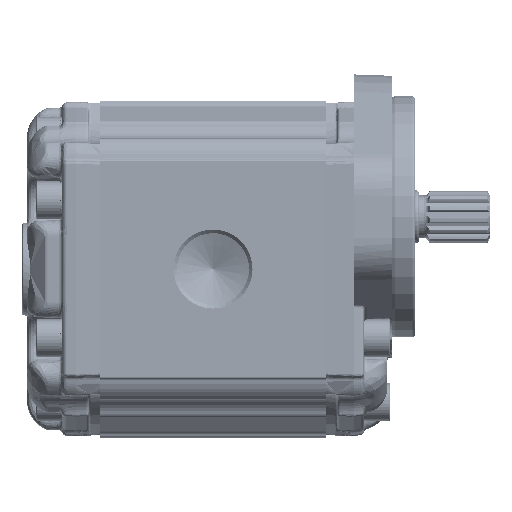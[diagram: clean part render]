
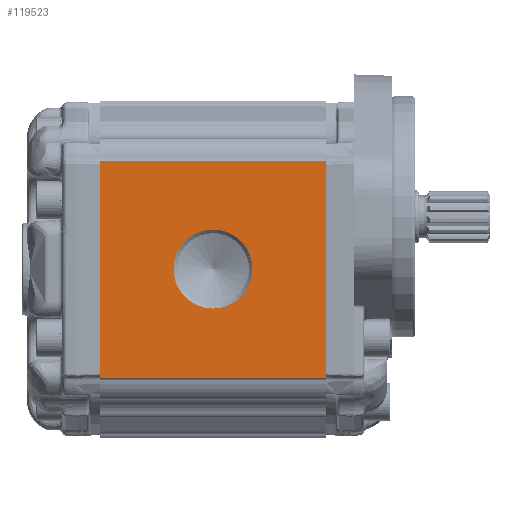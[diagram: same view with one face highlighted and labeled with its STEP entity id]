
A CAD part, left-side view. The second image highlights one B-rep face of the part: STEP entity #119523.
In plain terms, the highlighted planar face has unit normal (-1, 0, 0).
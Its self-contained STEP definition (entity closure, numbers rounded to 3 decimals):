
#7404=PLANE('',#125930);
#10190=LINE('',#217672,#15009);
#10201=LINE('',#217757,#15020);
#10239=LINE('',#217857,#15058);
#10240=LINE('',#217858,#15059);
#15009=VECTOR('',#139343,1000.);
#15020=VECTOR('',#139418,1000.);
#15058=VECTOR('',#139536,1000.);
#15059=VECTOR('',#139537,1000.);
#30766=ORIENTED_EDGE('',*,*,#52044,.T.);
#30767=ORIENTED_EDGE('',*,*,#51948,.F.);
#30768=ORIENTED_EDGE('',*,*,#52045,.T.);
#30769=ORIENTED_EDGE('',*,*,#51990,.F.);
#30770=ORIENTED_EDGE('',*,*,#52046,.T.);
#51948=EDGE_CURVE('',#63468,#63469,#10190,.T.);
#51990=EDGE_CURVE('',#63510,#63511,#10201,.T.);
#52044=EDGE_CURVE('',#63532,#63532,#70230,.F.);
#52045=EDGE_CURVE('',#63468,#63511,#10239,.F.);
#52046=EDGE_CURVE('',#63510,#63469,#10240,.F.);
#63468=VERTEX_POINT('',#217671);
#63469=VERTEX_POINT('',#217673);
#63510=VERTEX_POINT('',#217756);
#63511=VERTEX_POINT('',#217758);
#63532=VERTEX_POINT('',#217856);
#70230=CIRCLE('',#125931,16.646);
#74586=EDGE_LOOP('',(#30766));
#74587=EDGE_LOOP('',(#30767,#30768,#30769,#30770));
#79735=FACE_BOUND('',#74586,.T.);
#79736=FACE_BOUND('',#74587,.T.);
#119523=ADVANCED_FACE('',(#79735,#79736),#7404,.T.);
#125930=AXIS2_PLACEMENT_3D('',#217854,#139532,#139533);
#125931=AXIS2_PLACEMENT_3D('',#217855,#139534,#139535);
#139343=DIRECTION('',(0.,0.,1.));
#139418=DIRECTION('',(0.,0.,-1.));
#139532=DIRECTION('',(-1.,0.,0.));
#139533=DIRECTION('',(0.,0.,-1.));
#139534=DIRECTION('',(-1.,0.,0.));
#139535=DIRECTION('',(0.,0.,-1.));
#139536=DIRECTION('',(0.,1.,0.));
#139537=DIRECTION('',(0.,-1.,0.));
#217671=CARTESIAN_POINT('',(-57.5,95.,-45.5));
#217672=CARTESIAN_POINT('',(-57.5,95.,-84.819));
#217673=CARTESIAN_POINT('',(-57.5,95.,45.5));
#217756=CARTESIAN_POINT('',(-57.5,0.,45.5));
#217757=CARTESIAN_POINT('',(-57.5,0.,-44.978));
#217758=CARTESIAN_POINT('',(-57.5,0.,-45.5));
#217854=CARTESIAN_POINT('',(-57.5,-136.868,-84.819));
#217855=CARTESIAN_POINT('',(-57.5,47.5,0.));
#217856=CARTESIAN_POINT('',(-57.5,47.5,-16.646));
#217857=CARTESIAN_POINT('',(-57.5,-136.868,-45.5));
#217858=CARTESIAN_POINT('',(-57.5,-136.868,45.5));
